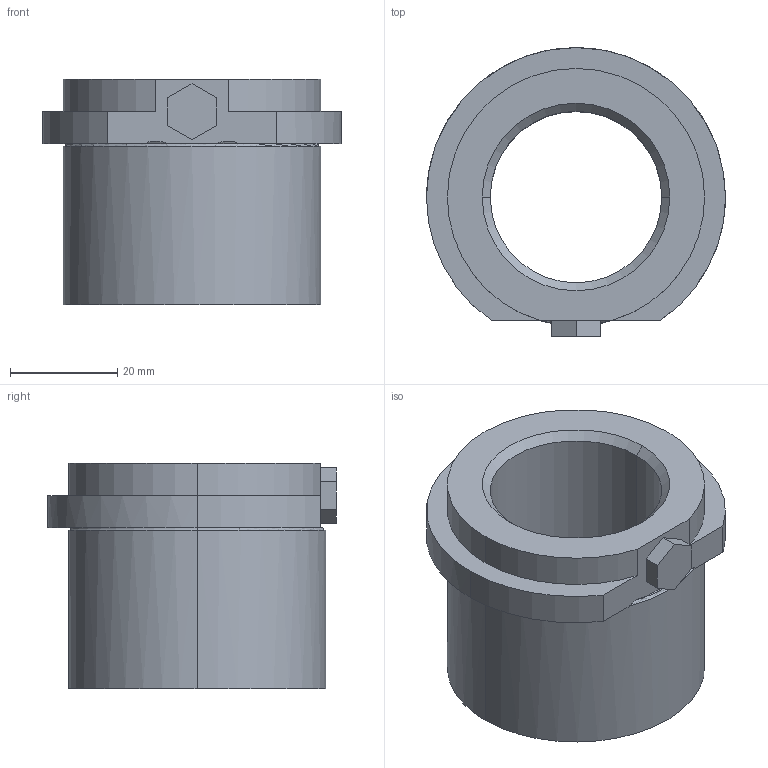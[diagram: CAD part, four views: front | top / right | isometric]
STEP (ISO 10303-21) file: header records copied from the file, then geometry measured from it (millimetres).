
FILE_DESCRIPTION(('CATIA V5 STEP Exchange'),'2;1');
FILE_NAME('C:\Users\Utente\Desktop\IO LAVORO\3D X SITO CF\X SITO\740\740-32.stp','2021-01-18T19:36:01+00:00',('none'),('none'),'CATIA Version 5 Release 20 GA (IN-10)','CATIA V5 STEP AP203','none');
FILE_SCHEMA(('CONFIG_CONTROL_DESIGN'));
Length unit declared in the file: millimetre
Products named in the file (1): 740-32
Assembly tree (1 placements, depth 2):
  740-32
    #58
Bounding box: 55.8 x 53.9 x 42 mm (x, y, z)
Volume: 45013.9 mm3; surface area: 14001.6 mm2
Topology: 1 solids, 1 shells, 35 faces, 88 edges, 57 vertices
Faces by surface type: plane 14, cylinder 12, torus 5, cone 4
Entity records: 1313 total; most frequent: CARTESIAN_POINT 451, ORIENTED_EDGE 176, DIRECTION 139, EDGE_CURVE 88, AXIS2_PLACEMENT_3D 63, VERTEX_POINT 57, VECTOR 42, LINE 42
